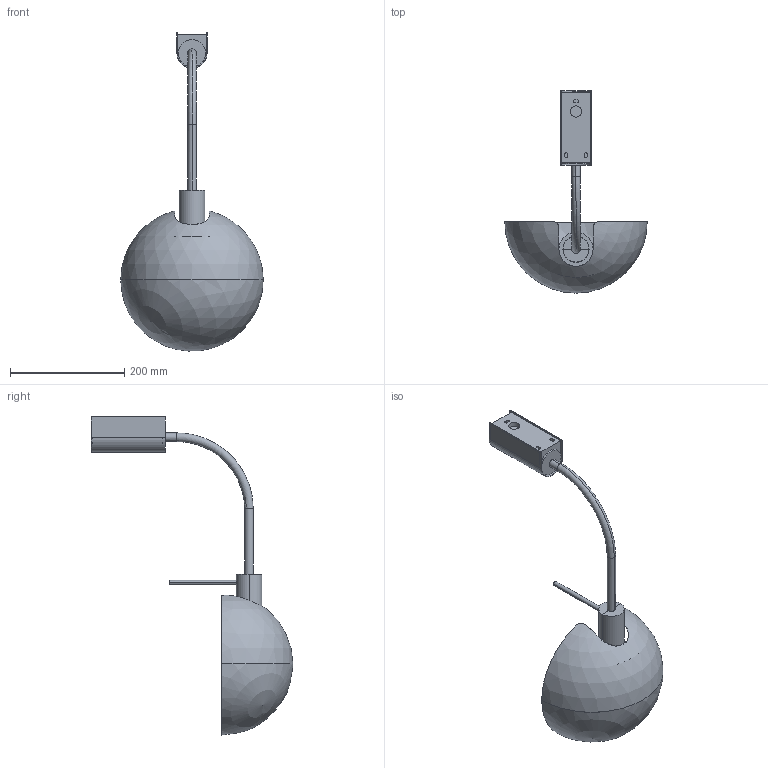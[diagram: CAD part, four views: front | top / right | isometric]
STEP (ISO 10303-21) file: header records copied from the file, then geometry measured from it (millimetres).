
FILE_DESCRIPTION(/* description */ (''),/* implementation_level */ '2;1');
FILE_NAME(/* name */ '20042-122.step',/* time_stamp */ '2024-11-05T12:25:49+01:00',/* author */ ('RenataManzini'),/* organization */ (''),/* preprocessor_version */ 'ST-DEVELOPER v20',/* originating_system */ 'AutoCAD Mechanical',/* authorisation */ '');
FILE_SCHEMA (('AUTOMOTIVE_DESIGN { 1 0 10303 214 3 1 1 }'));
Length unit declared in the file: millimetre
Products named in the file (2): Product; dominica_aplique_s - DOMINICA-484514-_3D_
Assembly tree (1 placements, depth 2):
  Product
    dominica_aplique_s - DOMINICA-484514-_3D_
Bounding box: 249.8 x 353.98 x 558 mm (x, y, z)
Volume: 692774.7 mm3; surface area: 280645.4 mm2
Topology: 7 solids, 7 shells, 113 faces, 253 edges, 157 vertices
Faces by surface type: plane 52, cylinder 43, bspline 6, torus 6, sphere 4, cone 2
Entity records: 4132 total; most frequent: CARTESIAN_POINT 1620, DIRECTION 528, ORIENTED_EDGE 488, EDGE_CURVE 244, AXIS2_PLACEMENT_3D 203, VERTEX_POINT 152, LINE 122, VECTOR 122
